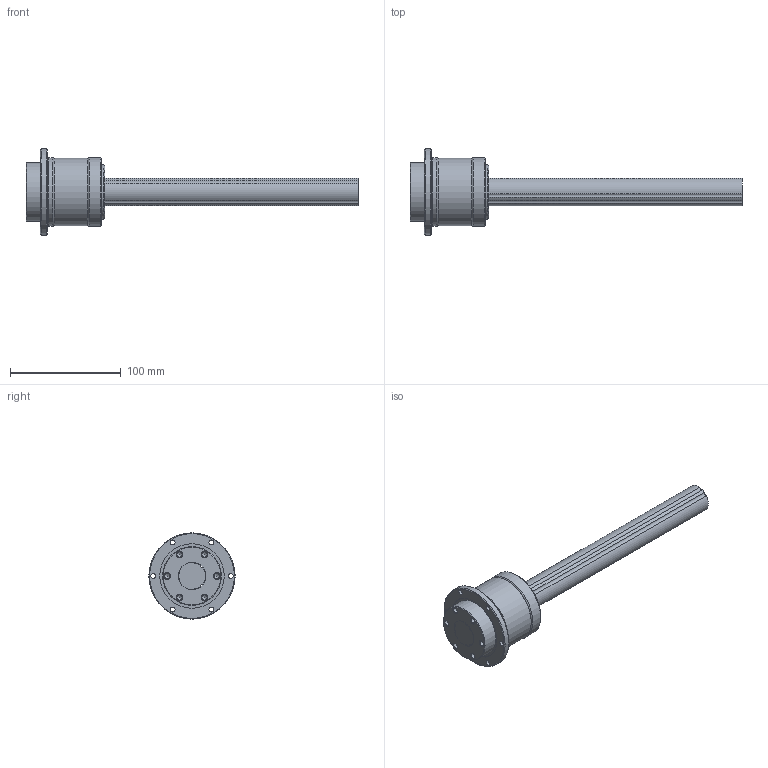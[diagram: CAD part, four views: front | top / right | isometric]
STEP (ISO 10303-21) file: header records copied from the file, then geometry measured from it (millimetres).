
FILE_DESCRIPTION(/* description */ ('STEP AP214'),/* implementation_level */ '2;1');
FILE_NAME(/* name */ 'LTR25+300L(00-)',/* time_stamp */ '2024-09-04T12:26:04+02:00',/* author */ ('License CC BY-ND 4.0'),/* organization */ ('CADENAS'),/* preprocessor_version */ 'ST-DEVELOPER v19.3',/* originating_system */ 'PARTsolutions',/* authorisation */ ' ');
FILE_SCHEMA (('AUTOMOTIVE_DESIGN {1 0 10303 214 3 1 1}'));
Length unit declared in the file: millimetre
Products named in the file (3): LTR25+300L(00-); LTR 25300 CTLTR Shaft; LTR 25 CTLTR Cyl
Assembly tree (3 placements, depth 2):
  LTR25+300L(00-)
    LTR 25300 CTLTR Shaft
    LTR 25 CTLTR Cyl  x2
Bounding box: 300 x 78 x 78 mm (x, y, z)
Volume: 478931.4 mm3; surface area: 87328.4 mm2
Topology: 3 solids, 3 shells, 120 faces, 280 edges, 180 vertices
Faces by surface type: cylinder 58, cone 36, plane 20, torus 6
Full cylindrical faces by diameter (mm): 4.5 x12, 4.917 x12, 25 x2, 49.5 x2, 53 x2, 55.8 x2, 58.3 x2, 61 x2, 61.4 x2, 62 x4, 62.4 x2, 78 x2
Entity records: 1699 total; most frequent: DIRECTION 320, CARTESIAN_POINT 255, ORIENTED_EDGE 190, AXIS2_PLACEMENT_3D 154, FACE_BOUND 138, EDGE_LOOP 132, EDGE_CURVE 95, VERTEX_POINT 89
